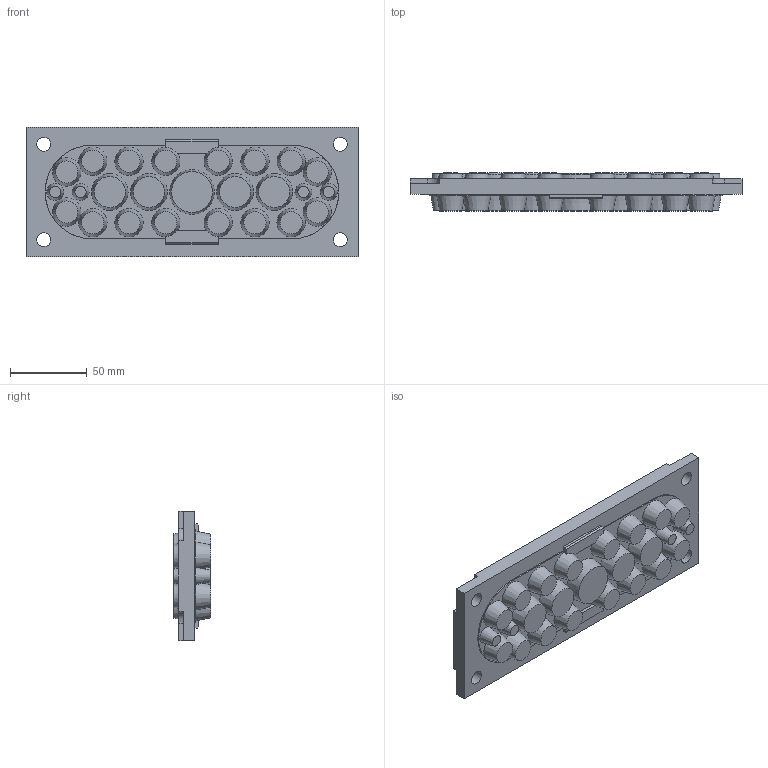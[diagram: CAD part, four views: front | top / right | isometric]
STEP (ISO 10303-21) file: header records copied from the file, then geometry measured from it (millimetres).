
FILE_DESCRIPTION( ( 'STEP AP214' ), '1' );
FILE_NAME( 'p:/temp/worker_130/temp/exporttempdir_5028_98_EObn3/format_0/EHTC2125G(0).stp', '2021-03-15T16:49:30', ( 'License CC BY-ND 4.0' ), ( 'CADENAS' ), ' ', 'PARTsolutions', ' ' );
FILE_SCHEMA( ( 'AUTOMOTIVE_DESIGN { 1 0 10303 214 1 1 1 1 }' ) );
Length unit declared in the file: millimetre
Products named in the file (1): _EHTC2125G(0)
Bounding box: 216 x 24.71 x 84 mm (x, y, z)
Volume: 264975.4 mm3; surface area: 58480.7 mm2
Topology: 1 solids, 1 shells, 199 faces, 391 edges, 262 vertices
Faces by surface type: plane 110, cone 54, cylinder 35
Full cylindrical faces by diameter (mm): 7 x4, 9.114 x16, 9.2 x4, 16.022 x4, 22.016 x1
Entity records: 6300 total; most frequent: DIRECTION 866, CARTESIAN_POINT 802, ORIENTED_EDGE 592, AXIS2_PLACEMENT_3D 382, EDGE_LOOP 354, EDGE_CURVE 296, VERTEX_POINT 246, FACE_OUTER_BOUND 228
